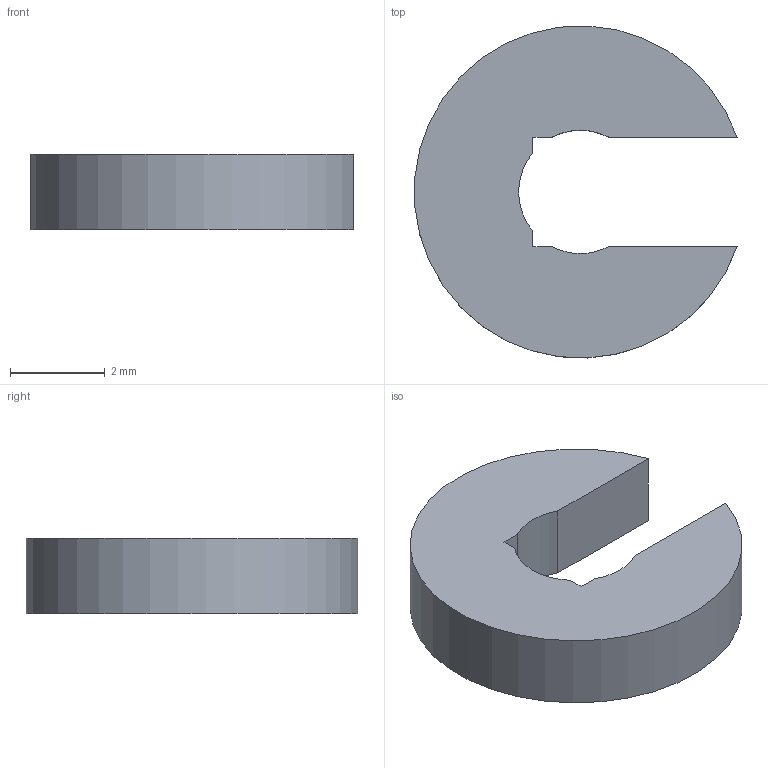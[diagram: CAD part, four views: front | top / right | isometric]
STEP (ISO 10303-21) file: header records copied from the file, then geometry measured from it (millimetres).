
FILE_DESCRIPTION(('Open CASCADE Model'),'2;1');
FILE_NAME('SCZ-CLIP3','2026-11-15T22:39:12',('Author'),('Open CASCADE'), 'Open CASCADE STEP processor 8.0','build123d','Unknown');
FILE_SCHEMA(('AUTOMOTIVE_DESIGN { 1 0 10303 214 1 1 1 1 }'));
Length unit declared in the file: millimetre
Products named in the file (1): SCZ-CLIP3
Bounding box: 6.79 x 6.99 x 1.6 mm (x, y, z)
Volume: 44.3 mm3; surface area: 104.7 mm2
Topology: 1 solids, 1 shells, 12 faces, 30 edges, 20 vertices
Faces by surface type: plane 8, cylinder 4
Entity records: 722 total; most frequent: CARTESIAN_POINT 163, DIRECTION 84, ORIENTED_EDGE 60, PCURVE 60, DEFINITIONAL_REPRESENTATION 60, B_SPLINE_CURVE_WITH_KNOTS 40, LINE 34, VECTOR 34
